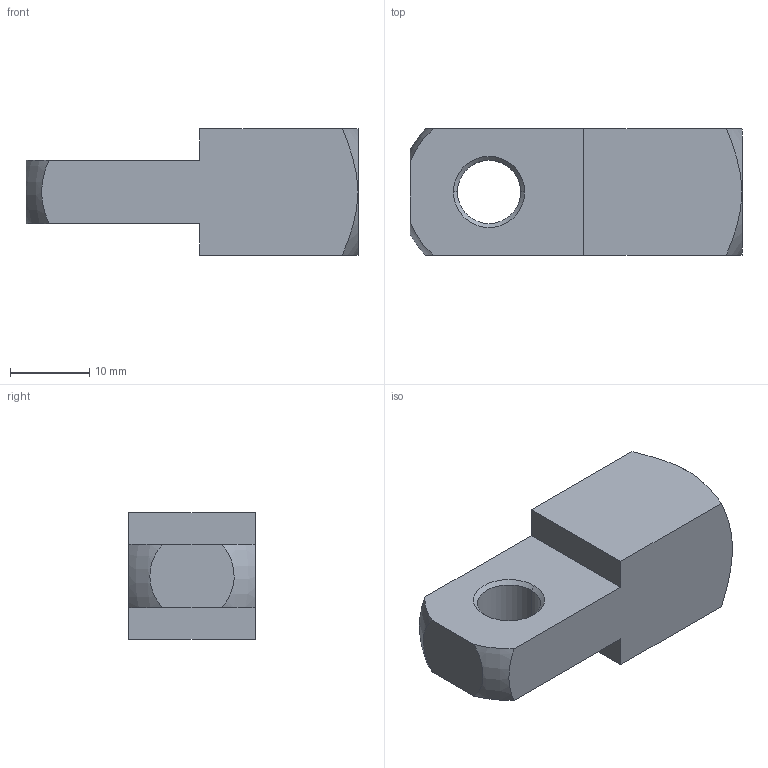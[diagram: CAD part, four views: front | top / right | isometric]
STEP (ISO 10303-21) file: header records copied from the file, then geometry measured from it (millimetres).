
FILE_DESCRIPTION (( 'STEP AP203' ), '1' );
FILE_NAME ('65653.W1008.step', '2014-01-22T12:16:31', ( 'User' ), ( '' ), 'SwSTEP 2.0', 'SolidWorks 2009', '' );
FILE_SCHEMA (( 'CONFIG_CONTROL_DESIGN' ));
Length unit declared in the file: millimetre
Products named in the file (1): 65653.W1008
Bounding box: 42 x 16 x 16 mm (x, y, z)
Volume: 6557.9 mm3; surface area: 3285.5 mm2
Topology: 1 solids, 1 shells, 31 faces, 74 edges, 45 vertices
Faces by surface type: cone 12, plane 11, cylinder 6, torus 2
Entity records: 1079 total; most frequent: CARTESIAN_POINT 289, DIRECTION 152, ORIENTED_EDGE 144, EDGE_CURVE 72, AXIS2_PLACEMENT_3D 60, VERTEX_POINT 45, EDGE_LOOP 35, LINE 32
